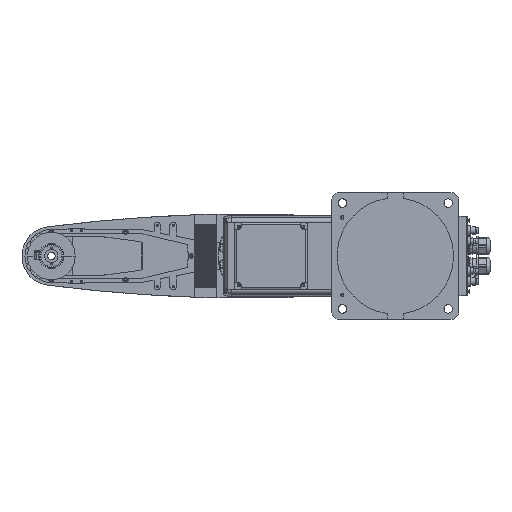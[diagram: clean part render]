
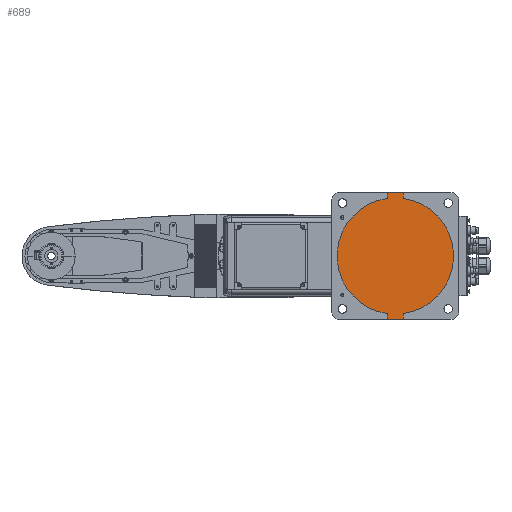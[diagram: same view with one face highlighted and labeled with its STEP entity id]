
A CAD part, front view. The second image highlights one B-rep face of the part: STEP entity #689.
In plain terms, the highlighted planar face has unit normal (0, -1, 0).
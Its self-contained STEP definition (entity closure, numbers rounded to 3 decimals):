
#689 = ADVANCED_FACE( '', ( #3144 ), #3145, .F. );
#3144 = FACE_OUTER_BOUND( '', #7765, .T. );
#3145 = PLANE( '', #7766 );
#7765 = EDGE_LOOP( '', ( #13908, #13909, #13910, #13911, #13912, #13913, #13914, #13915 ) );
#7766 = AXIS2_PLACEMENT_3D( '', #13916, #13917, #13918 );
#13908 = ORIENTED_EDGE( '', *, *, #29755, .T. );
#13909 = ORIENTED_EDGE( '', *, *, #29703, .F. );
#13910 = ORIENTED_EDGE( '', *, *, #29756, .T. );
#13911 = ORIENTED_EDGE( '', *, *, #29757, .T. );
#13912 = ORIENTED_EDGE( '', *, *, #29758, .T. );
#13913 = ORIENTED_EDGE( '', *, *, #29759, .F. );
#13914 = ORIENTED_EDGE( '', *, *, #29760, .T. );
#13915 = ORIENTED_EDGE( '', *, *, #29761, .T. );
#13916 = CARTESIAN_POINT( '', ( 0., 6., 0. ) );
#13917 = DIRECTION( '', ( 0., 1., 0. ) );
#13918 = DIRECTION( '', ( 0., 0., 1. ) );
#29703 = EDGE_CURVE( '', #35726, #35728, #35729, .T. );
#29755 = EDGE_CURVE( '', #35818, #35728, #35819, .T. );
#29756 = EDGE_CURVE( '', #35726, #35820, #35821, .T. );
#29757 = EDGE_CURVE( '', #35820, #35822, #35823, .T. );
#29758 = EDGE_CURVE( '', #35822, #35824, #35825, .T. );
#29759 = EDGE_CURVE( '', #35826, #35824, #35827, .T. );
#29760 = EDGE_CURVE( '', #35826, #35828, #35829, .T. );
#29761 = EDGE_CURVE( '', #35828, #35818, #35830, .T. );
#35726 = VERTEX_POINT( '', #45262 );
#35728 = VERTEX_POINT( '', #45265 );
#35729 = LINE( '', #45266, #45267 );
#35818 = VERTEX_POINT( '', #45387 );
#35819 = LINE( '', #45388, #45389 );
#35820 = VERTEX_POINT( '', #45390 );
#35821 = LINE( '', #45391, #45392 );
#35822 = VERTEX_POINT( '', #45393 );
#35823 = CIRCLE( '', #45394, 110. );
#35824 = VERTEX_POINT( '', #45395 );
#35825 = LINE( '', #45396, #45397 );
#35826 = VERTEX_POINT( '', #45398 );
#35827 = LINE( '', #45399, #45400 );
#35828 = VERTEX_POINT( '', #45401 );
#35829 = LINE( '', #45402, #45403 );
#35830 = CIRCLE( '', #45404, 110. );
#45262 = CARTESIAN_POINT( '', ( 15., 6., -120. ) );
#45265 = CARTESIAN_POINT( '', ( -15., 6., -120. ) );
#45266 = CARTESIAN_POINT( '', ( -52.5, 6., -120. ) );
#45267 = VECTOR( '', #59224, 1. );
#45387 = CARTESIAN_POINT( '', ( -15., 6., -108.972 ) );
#45388 = CARTESIAN_POINT( '', ( -15., 6., -120. ) );
#45389 = VECTOR( '', #59316, 1. );
#45390 = CARTESIAN_POINT( '', ( 15., 6., -108.972 ) );
#45391 = CARTESIAN_POINT( '', ( 15., 6., -108.972 ) );
#45392 = VECTOR( '', #59317, 1. );
#45393 = CARTESIAN_POINT( '', ( 15., 6., 108.972 ) );
#45394 = AXIS2_PLACEMENT_3D( '', #59318, #59319, #59320 );
#45395 = CARTESIAN_POINT( '', ( 15., 6., 120. ) );
#45396 = CARTESIAN_POINT( '', ( 15., 6., 120. ) );
#45397 = VECTOR( '', #59321, 1. );
#45398 = CARTESIAN_POINT( '', ( -15., 6., 120. ) );
#45399 = CARTESIAN_POINT( '', ( 52.5, 6., 120. ) );
#45400 = VECTOR( '', #59322, 1. );
#45401 = CARTESIAN_POINT( '', ( -15., 6., 108.972 ) );
#45402 = CARTESIAN_POINT( '', ( -15., 6., 108.972 ) );
#45403 = VECTOR( '', #59323, 1. );
#45404 = AXIS2_PLACEMENT_3D( '', #59324, #59325, #59326 );
#59224 = DIRECTION( '', ( -1., 0., 0. ) );
#59316 = DIRECTION( '', ( 0., 0., -1. ) );
#59317 = DIRECTION( '', ( 0., 0., 1. ) );
#59318 = CARTESIAN_POINT( '', ( 0., 6., 0. ) );
#59319 = DIRECTION( '', ( 0., -1., 0. ) );
#59320 = DIRECTION( '', ( 0.136, 0., 0.991 ) );
#59321 = DIRECTION( '', ( 0., 0., 1. ) );
#59322 = DIRECTION( '', ( 1., 0., 0. ) );
#59323 = DIRECTION( '', ( 0., 0., -1. ) );
#59324 = CARTESIAN_POINT( '', ( 0., 6., 0. ) );
#59325 = DIRECTION( '', ( 0., -1., 0. ) );
#59326 = DIRECTION( '', ( -0.136, 0., -0.991 ) );
